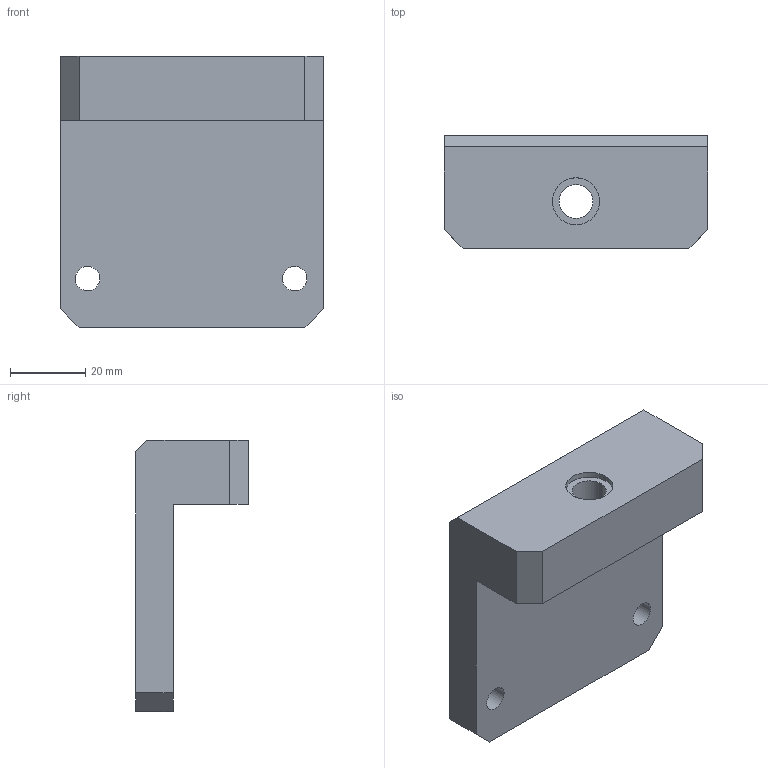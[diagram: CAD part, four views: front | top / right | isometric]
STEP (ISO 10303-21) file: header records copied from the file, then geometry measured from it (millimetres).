
FILE_DESCRIPTION(('CATIA V5 STEP Exchange'),'2;1');
FILE_NAME('D:\姚明阳\1、工装图纸\AGZ036 按压速降阀管箍锁紧工装\AGZ036.05_V1.stp','2025-08-27T06:36:15+00:00',('none'),('none'),'CATIA Version 5 Release 21 GA (IN-10)','CATIA V5 STEP AP214','none');
FILE_SCHEMA(('AUTOMOTIVE_DESIGN { 1 0 10303 214 1 1 1 1 }'));
Length unit declared in the file: millimetre
Products named in the file (1): AGZ036.05_V1
Bounding box: 70 x 30 x 72 mm (x, y, z)
Volume: 69859.4 mm3; surface area: 16946 mm2
Topology: 1 solids, 1 shells, 31 faces, 77 edges, 51 vertices
Faces by surface type: plane 17, cylinder 14
Entity records: 899 total; most frequent: ORIENTED_EDGE 154, CARTESIAN_POINT 152, DIRECTION 123, EDGE_CURVE 77, AXIS2_PLACEMENT_3D 53, VERTEX_POINT 51, VECTOR 48, LINE 48
